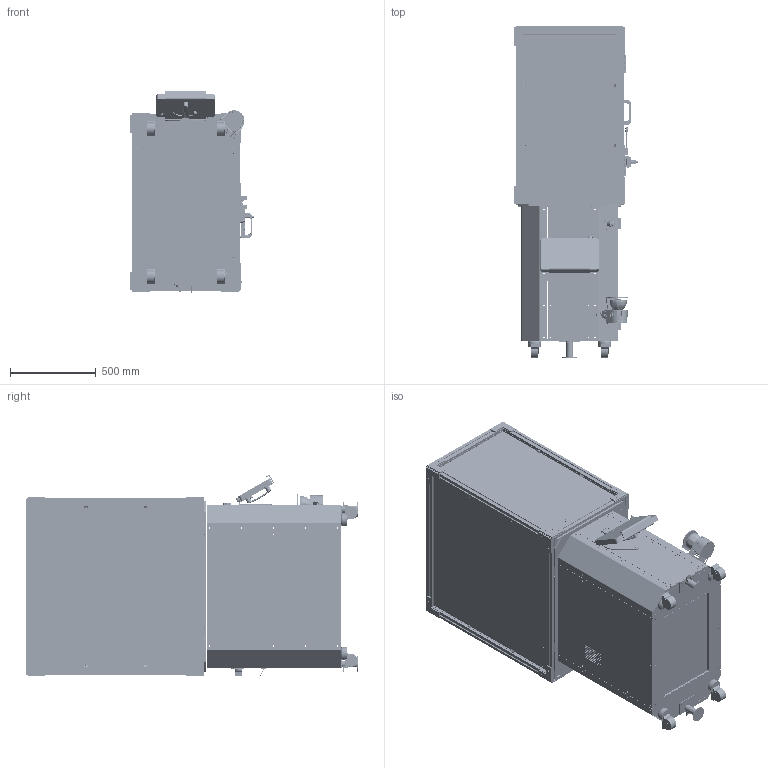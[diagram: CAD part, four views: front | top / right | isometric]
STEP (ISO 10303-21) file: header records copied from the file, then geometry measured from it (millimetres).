
FILE_DESCRIPTION (( 'STEP AP214' ), '1' );
FILE_NAME ('BUNDLE_H600_grip_2021_06.STEP', '2021-05-26T08:10:44', ( '' ), ( '' ), 'SwSTEP 2.0', 'SolidWorks 2017', '' );
FILE_SCHEMA (( 'AUTOMOTIVE_DESIGN' ));
Length unit declared in the file: millimetre
Products named in the file (19): horstPANEL; BUNDLE_H600_grip_2021_06; MRB_S_BUNDLE; horstCONTROL; LASERSCANNER_SICK; ZUHALTUNG_SENSOR; Halterung_horstPANEL; SCHUTZZAUN_S; ZUSAMMENBAU_GREIFER_GEP2010; fru_HORST600_2021_01
Assembly tree (9 placements, depth 2):
  BUNDLE_H600_grip_2021_06
    MRB_S_BUNDLE
    horstPANEL
    horstCONTROL
    Halterung_horstPANEL
    fru_HORST600_2021_01
    LASERSCANNER_SICK
    ZUSAMMENBAU_GREIFER_GEP2010
    SCHUTZZAUN_S
    ZUHALTUNG_SENSOR
  horstCONTROL
  horstPANEL
  ZUHALTUNG_SENSOR
  MRB_S_BUNDLE
Bounding box: 720.62 x 1939.5 x 1180.1 mm (x, y, z)
Volume: 32930734.2 mm3; surface area: 28482906.4 mm2
Topology: 221 solids, 934 shells, 26758 faces, 77631 edges, 52372 vertices
Faces by surface type: plane 16448, cylinder 7487, bspline 1895, cone 801, torus 113, sphere 14
Entity records: 1277390 total; most frequent: CARTESIAN_POINT 282171, ORIENTED_EDGE 144965, DIRECTION 136754, EDGE_CURVE 77405, LINE 53688, VECTOR 53688, VERTEX_POINT 52366, AXIS2_PLACEMENT_3D 41533
